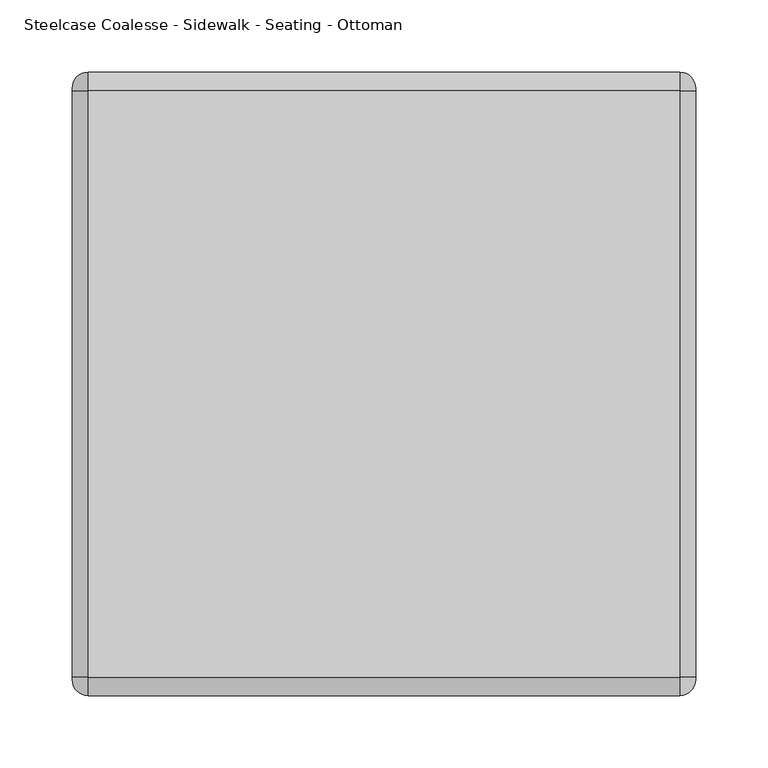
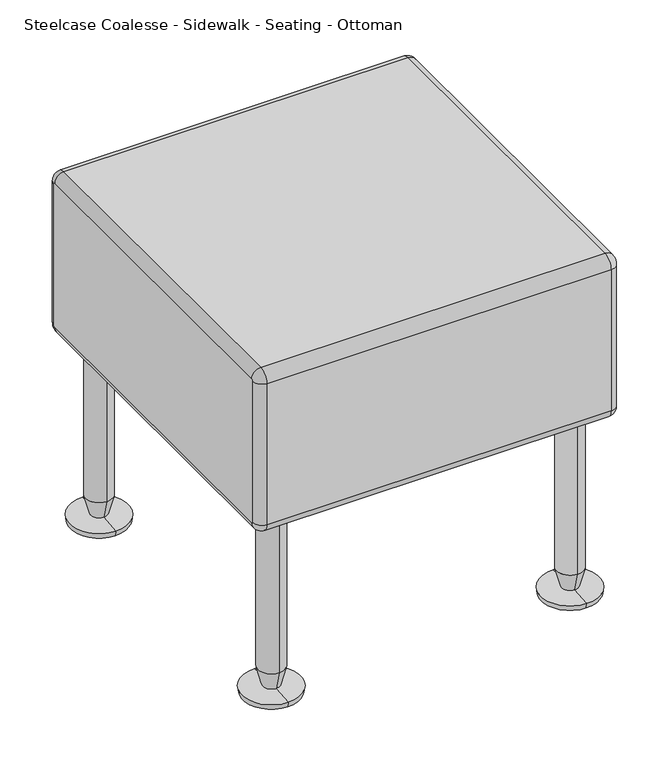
"""IFC4 building model written with IfcOpenShell, lengths in millimetres: furniture geometry, Steelcase Coalesse - Sidewalk - Seating - Ottoman : 17D x 17W."""

from ifc_helpers import new_model, si_unit, point, frame, origin, place, context, project, spatial, polyline, circle_curve, ellipse_curve, trimmed, source, transform, mapped, element, save
from ifc_brep_helpers import plane_surface, cylinder_surface, revolved_surface, advanced_brep


def steelcase_coalesse_sidewalk_seating_ottoman_6e0333ec(model_context):
    return source(origin(), model_context, "Body", "AdvancedBrep", [
        advanced_brep(
        [(465.8089794, -146.3050929, 420.6875), (465.8089794, -144.7175929, 419.1), (465.8089794, -144.7175929, 241.3), (465.8089794, -146.3050929, 239.7125), (465.8089794, -552.7050929, 239.7125), (465.8089794, -554.2925929, 241.3), (465.8089794, -554.2925929, 419.1), (465.8089794, -552.7050929, 420.6875), (897.6089794, -552.7050929, 420.6875), (897.6089794, -554.2925929, 419.1), (897.6089794, -554.2925929, 241.3), (897.6089794, -552.7050929, 239.7125), (897.6089794, -146.3050929, 239.7125), (897.6089794, -144.7175929, 241.3), (897.6089794, -144.7175929, 419.1), (897.6089794, -146.3050929, 420.6875), (476.9214794, -146.3050929, 431.8), (476.9214794, -552.7050929, 431.8), (886.4964794, -552.7050929, 431.8), (886.4964794, -146.3050929, 431.8), (476.9214794, -133.6050929, 419.1), (886.4964794, -133.6050929, 419.1), (476.9214794, -133.6050929, 241.3), (886.4964794, -133.6050929, 241.3), (476.9214794, -146.3050929, 228.6), (886.4964794, -146.3050929, 228.6), (476.9214794, -552.7050929, 228.6), (886.4964794, -552.7050929, 228.6), (476.9214794, -565.4050929, 241.3), (886.4964794, -565.4050929, 241.3), (476.9214794, -565.4050929, 419.1), (886.4964794, -565.4050929, 419.1)],
        [
            (0, 1, circle_curve(frame((465.8089794, -146.3050929, 419.1), z_axis=(-1.0, 0.0, 0.0), x_axis=(0.0, 0.0, 1.0)), 1.5875)),
            (1, 2),
            (2, 3, circle_curve(frame((465.8089794, -146.3050929, 241.3), z_axis=(-1.0, 0.0, 0.0), x_axis=(0.0, 1.0, 0.0)), 1.5875)),
            (3, 4),
            (4, 5, circle_curve(frame((465.8089794, -552.7050929, 241.3), z_axis=(-1.0, 0.0, 0.0), x_axis=(0.0, 0.0, -1.0)), 1.5875)),
            (5, 6),
            (6, 7, circle_curve(frame((465.8089794, -552.7050929, 419.1), z_axis=(-1.0, 0.0, 0.0), x_axis=(0.0, -1.0, 0.0)), 1.5875)),
            (7, 0),
            (8, 9, circle_curve(frame((897.6089794, -552.7050929, 419.1), z_axis=(1.0, 0.0, 0.0), x_axis=(0.0, 0.0, 1.0)), 1.5875)),
            (9, 10),
            (10, 11, circle_curve(frame((897.6089794, -552.7050929, 241.3), z_axis=(1.0, 0.0, 0.0), x_axis=(0.0, -1.0, 0.0)), 1.5875)),
            (11, 12),
            (12, 13, circle_curve(frame((897.6089794, -146.3050929, 241.3), z_axis=(1.0, 0.0, 0.0), x_axis=(0.0, 0.0, -1.0)), 1.5875)),
            (13, 14),
            (14, 15, circle_curve(frame((897.6089794, -146.3050929, 419.1), z_axis=(1.0, 0.0, 0.0), x_axis=(0.0, 1.0, 0.0)), 1.5875)),
            (15, 8),
            (16, 17),
            (17, 18),
            (18, 19),
            (19, 16),
            (20, 16, circle_curve(frame((476.9214794, -146.3050929, 419.1), z_axis=(1.0, 0.0, 0.0), x_axis=(0.0, -1.0, 0.0)), 12.7)),
            (19, 21, circle_curve(frame((886.4964794, -146.3050929, 419.1), z_axis=(-1.0, 0.0, 0.0), x_axis=(0.0, -1.0, 0.0)), 12.7)),
            (21, 20),
            (22, 20),
            (21, 23),
            (23, 22),
            (24, 22, circle_curve(frame((476.9214794, -146.3050929, 241.3), z_axis=(1.0, 0.0, 0.0), x_axis=(0.0, -1.0, 0.0)), 12.7)),
            (23, 25, circle_curve(frame((886.4964794, -146.3050929, 241.3), z_axis=(-1.0, 0.0, 0.0), x_axis=(0.0, -1.0, 0.0)), 12.7)),
            (25, 24),
            (26, 24),
            (25, 27),
            (27, 26),
            (28, 26, circle_curve(frame((476.9214794, -552.7050929, 241.3), z_axis=(1.0, 0.0, 0.0), x_axis=(0.0, -1.0, 0.0)), 12.7)),
            (27, 29, circle_curve(frame((886.4964794, -552.7050929, 241.3), z_axis=(-1.0, 0.0, 0.0), x_axis=(0.0, -1.0, 0.0)), 12.7)),
            (29, 28),
            (30, 28),
            (29, 31),
            (31, 30),
            (17, 30, circle_curve(frame((476.9214794, -552.7050929, 419.1), z_axis=(1.0, 0.0, 0.0), x_axis=(0.0, -1.0, 0.0)), 12.7)),
            (31, 18, circle_curve(frame((886.4964794, -552.7050929, 419.1), z_axis=(-1.0, 0.0, 0.0), x_axis=(0.0, -1.0, 0.0)), 12.7)),
            (20, 1, circle_curve(frame((476.9214794, -144.7175929, 419.1), z_axis=(0.0, 0.0, 1.0), x_axis=(0.0, -1.0, 0.0)), 11.1125)),
            (0, 16, circle_curve(frame((476.9214794, -146.3050929, 420.6875), z_axis=(0.0, 1.0, 0.0), x_axis=(0.0, 0.0, -1.0)), 11.1125)),
            (22, 2, circle_curve(frame((476.9214794, -144.7175929, 241.3), z_axis=(0.0, 0.0, 1.0), x_axis=(0.0, -1.0, 0.0)), 11.1125)),
            (24, 3, circle_curve(frame((476.9214794, -146.3050929, 239.7125), z_axis=(0.0, 1.0, 0.0), x_axis=(0.0, 0.0, 1.0)), 11.1125)),
            (26, 4, circle_curve(frame((476.9214794, -552.7050929, 239.7125), z_axis=(0.0, 1.0, 0.0), x_axis=(0.0, 0.0, 1.0)), 11.1125)),
            (28, 5, circle_curve(frame((476.9214794, -554.2925929, 241.3), z_axis=(0.0, 0.0, -1.0), x_axis=(0.0, 1.0, 0.0)), 11.1125)),
            (30, 6, circle_curve(frame((476.9214794, -554.2925929, 419.1), z_axis=(0.0, 0.0, -1.0), x_axis=(0.0, 1.0, 0.0)), 11.1125)),
            (17, 7, circle_curve(frame((476.9214794, -552.7050929, 420.6875), z_axis=(0.0, -1.0, 0.0), x_axis=(0.0, 0.0, -1.0)), 11.1125)),
            (31, 9, circle_curve(frame((886.4964794, -554.2925929, 419.1), z_axis=(0.0, 0.0, 1.0), x_axis=(0.0, -1.0, 0.0)), 11.1125)),
            (8, 18, circle_curve(frame((886.4964794, -552.7050929, 420.6875), z_axis=(0.0, -1.0, 0.0), x_axis=(0.0, 0.0, 1.0)), 11.1125)),
            (29, 10, circle_curve(frame((886.4964794, -554.2925929, 241.3), z_axis=(0.0, 0.0, 1.0), x_axis=(0.0, -1.0, 0.0)), 11.1125)),
            (27, 11, circle_curve(frame((886.4964794, -552.7050929, 239.7125), z_axis=(0.0, -1.0, 0.0), x_axis=(0.0, 0.0, -1.0)), 11.1125)),
            (25, 12, circle_curve(frame((886.4964794, -146.3050929, 239.7125), z_axis=(0.0, -1.0, 0.0), x_axis=(0.0, 0.0, -1.0)), 11.1125)),
            (23, 13, circle_curve(frame((886.4964794, -144.7175929, 241.3), z_axis=(0.0, 0.0, -1.0), x_axis=(0.0, 1.0, 0.0)), 11.1125)),
            (21, 14, circle_curve(frame((886.4964794, -144.7175929, 419.1), z_axis=(0.0, 0.0, -1.0), x_axis=(0.0, 1.0, 0.0)), 11.1125)),
            (19, 15, circle_curve(frame((886.4964794, -146.3050929, 420.6875), z_axis=(0.0, 1.0, 0.0), x_axis=(0.0, 0.0, 1.0)), 11.1125)),
        ],
        [
            plane_surface(frame((465.8089794, -146.3050929, 431.8), z_axis=(-1.0, 0.0, 0.0), x_axis=(0.0, 1.0, 0.0))),
            plane_surface(frame((897.6089794, -146.3050929, 431.8), z_axis=(1.0, 0.0, 0.0), x_axis=(0.0, -1.0, 0.0))),
            plane_surface(frame((465.8089794, -552.7050929, 431.8), z_axis=(0.0, 0.0, 1.0), x_axis=(1.0, 0.0, 0.0))),
            cylinder_surface(frame((897.6089794, -146.3050929, 419.1), z_axis=(-1.0, 0.0, 0.0), x_axis=(0.0, -1.0, 0.0)), 12.7),
            plane_surface(frame((465.8089794, -133.6050929, 419.1), z_axis=(0.0, 1.0, 0.0), x_axis=(1.0, 0.0, 0.0))),
            cylinder_surface(frame((897.6089794, -146.3050929, 241.3), z_axis=(-1.0, 0.0, 0.0), x_axis=(0.0, -1.0, 0.0)), 12.7),
            plane_surface(frame((465.8089794, -146.3050929, 228.6), z_axis=(0.0, 0.0, -1.0), x_axis=(1.0, 0.0, 0.0))),
            cylinder_surface(frame((897.6089794, -552.7050929, 241.3), z_axis=(-1.0, 0.0, 0.0), x_axis=(0.0, -1.0, 0.0)), 12.7),
            plane_surface(frame((465.8089794, -565.4050929, 241.3), z_axis=(0.0, -1.0, 0.0), x_axis=(1.0, 0.0, 0.0))),
            cylinder_surface(frame((897.6089794, -552.7050929, 419.1), z_axis=(-1.0, 0.0, 0.0), x_axis=(0.0, -1.0, 0.0)), 12.7),
            revolved_surface(trimmed(ellipse_curve(frame((476.9214794, -146.3050929, 420.6875), z_axis=(0.0, -1.0, 0.0), x_axis=(0.0, 0.0, -1.0)), 11.1125, 11.1125), [point((476.9214794, -146.3050929, 431.8))], [point((465.8089794, -146.3050929, 420.6875))], True, "CARTESIAN"), (465.8089794, -146.3050929, 419.1), (-1.0, 0.0, 0.0)),
            cylinder_surface(frame((476.9214794, -144.7175929, 419.1), z_axis=(0.0, 0.0, -1.0), x_axis=(0.0, -1.0, 0.0)), 11.1125),
            revolved_surface(trimmed(ellipse_curve(frame((476.9214794, -144.7175929, 241.3), z_axis=(0.0, 0.0, 1.0), x_axis=(0.0, -1.0, 0.0)), 11.1125, 11.1125), [point((476.9214794, -133.6050929, 241.3))], [point((465.8089794, -144.7175929, 241.3))], True, "CARTESIAN"), (465.8089794, -146.3050929, 241.3), (-1.0, 0.0, 0.0)),
            cylinder_surface(frame((476.9214794, -146.3050929, 239.7125), z_axis=(0.0, -1.0, 0.0), x_axis=(0.0, 0.0, 1.0)), 11.1125),
            revolved_surface(trimmed(ellipse_curve(frame((476.9214794, -552.7050929, 239.7125), z_axis=(0.0, 1.0, 0.0), x_axis=(0.0, 0.0, 1.0)), 11.1125, 11.1125), [point((476.9214794, -552.7050929, 228.6))], [point((465.8089794, -552.7050929, 239.7125))], True, "CARTESIAN"), (465.8089794, -552.7050929, 241.3), (-1.0, 0.0, 0.0)),
            cylinder_surface(frame((476.9214794, -554.2925929, 241.3), z_axis=(0.0, 0.0, 1.0), x_axis=(0.0, 1.0, 0.0)), 11.1125),
            revolved_surface(trimmed(ellipse_curve(frame((476.9214794, -554.2925929, 419.1), z_axis=(0.0, 0.0, -1.0), x_axis=(0.0, 1.0, 0.0)), 11.1125, 11.1125), [point((476.9214794, -565.4050929, 419.1))], [point((465.8089794, -554.2925929, 419.1))], True, "CARTESIAN"), (465.8089794, -552.7050929, 419.1), (-1.0, 0.0, 0.0)),
            cylinder_surface(frame((476.9214794, -552.7050929, 420.6875), z_axis=(0.0, 1.0, 0.0), x_axis=(0.0, 0.0, -1.0)), 11.1125),
            revolved_surface(trimmed(ellipse_curve(frame((886.4964794, -552.7050929, 420.6875), z_axis=(0.0, 1.0, 0.0), x_axis=(0.0, 0.0, 1.0)), 11.1125, 11.1125), [point((886.4964794, -552.7050929, 431.8))], [point((897.6089794, -552.7050929, 420.6875))], True, "CARTESIAN"), (897.6089794, -552.7050929, 419.1), (1.0, 0.0, 0.0)),
            cylinder_surface(frame((886.4964794, -554.2925929, 419.1), z_axis=(0.0, 0.0, -1.0), x_axis=(0.0, -1.0, 0.0)), 11.1125),
            revolved_surface(trimmed(ellipse_curve(frame((886.4964794, -554.2925929, 241.3), z_axis=(0.0, 0.0, 1.0), x_axis=(0.0, -1.0, 0.0)), 11.1125, 11.1125), [point((886.4964794, -565.4050929, 241.3))], [point((897.6089794, -554.2925929, 241.3))], True, "CARTESIAN"), (897.6089794, -552.7050929, 241.3), (1.0, 0.0, 0.0)),
            cylinder_surface(frame((886.4964794, -552.7050929, 239.7125), z_axis=(0.0, 1.0, 0.0), x_axis=(0.0, 0.0, -1.0)), 11.1125),
            revolved_surface(trimmed(ellipse_curve(frame((886.4964794, -146.3050929, 239.7125), z_axis=(0.0, -1.0, 0.0), x_axis=(0.0, 0.0, -1.0)), 11.1125, 11.1125), [point((886.4964794, -146.3050929, 228.6))], [point((897.6089794, -146.3050929, 239.7125))], True, "CARTESIAN"), (897.6089794, -146.3050929, 241.3), (1.0, 0.0, 0.0)),
            cylinder_surface(frame((886.4964794, -144.7175929, 241.3), z_axis=(0.0, 0.0, 1.0), x_axis=(0.0, 1.0, 0.0)), 11.1125),
            revolved_surface(trimmed(ellipse_curve(frame((886.4964794, -144.7175929, 419.1), z_axis=(0.0, 0.0, -1.0), x_axis=(0.0, 1.0, 0.0)), 11.1125, 11.1125), [point((886.4964794, -133.6050929, 419.1))], [point((897.6089794, -144.7175929, 419.1))], True, "CARTESIAN"), (897.6089794, -146.3050929, 419.1), (1.0, 0.0, 0.0)),
            cylinder_surface(frame((886.4964794, -146.3050929, 420.6875), z_axis=(0.0, -1.0, 0.0), x_axis=(0.0, 0.0, 1.0)), 11.1125),
        ],
        [
            (0, [[1, 2, 3, 4, 5, 6, 7, 8]]),
            (1, [[9, 10, 11, 12, 13, 14, 15, 16]]),
            (2, [[17, 18, 19, 20]]),
            (3, [[21, -20, 22, 23]]),
            (4, [[24, -23, 25, 26]]),
            (5, [[27, -26, 28, 29]]),
            (6, [[30, -29, 31, 32]]),
            (7, [[33, -32, 34, 35]]),
            (8, [[36, -35, 37, 38]]),
            (9, [[39, -38, 40, -18]]),
            (10, [[41, -1, 42, -21]]),
            (11, [[-41, -24, 43, -2]]),
            (12, [[-43, -27, 44, -3]]),
            (13, [[-44, -30, 45, -4]]),
            (14, [[-45, -33, 46, -5]]),
            (15, [[-46, -36, 47, -6]]),
            (16, [[-47, -39, 48, -7]]),
            (17, [[-42, -8, -48, -17]]),
            (18, [[49, -9, 50, -40]]),
            (19, [[-49, -37, 51, -10]]),
            (20, [[-51, -34, 52, -11]]),
            (21, [[-52, -31, 53, -12]]),
            (22, [[-53, -28, 54, -13]]),
            (23, [[-54, -25, 55, -14]]),
            (24, [[-55, -22, 56, -15]]),
            (25, [[-50, -16, -56, -19]]),
        ],
    ),
        advanced_brep(
        [(859.5089794, -187.5800929, 31.75), (859.5089794, -155.8300929, 31.75), (859.5089794, -155.8300929, 228.6), (859.5089794, -187.5800929, 228.6), (859.5089794, -181.5884463, 8.5001207), (859.5089794, -161.8217394, 8.5001207), (859.5089794, -206.6300929, 6.35), (859.5089794, -136.7800929, 6.35), (859.5089794, -205.5717596, 0.0), (859.5089794, -137.8384262, 0.0), (859.5089794, -171.7050929, 0.0), (859.5089794, -171.7050929, 228.6)],
        [
            (0, 1, circle_curve(frame((859.5089794, -171.7050929, 31.75), z_axis=(0.0, 0.0, 1.0), x_axis=(0.0, 1.0, 0.0)), 15.875)),
            (1, 2),
            (2, 3, circle_curve(frame((859.5089794, -171.7050929, 228.6), z_axis=(0.0, 0.0, -1.0), x_axis=(0.0, 1.0, 0.0)), 15.875)),
            (3, 0),
            (1, 0, circle_curve(frame((859.5089794, -171.7050929, 31.75), z_axis=(0.0, 0.0, 1.0), x_axis=(0.0, 1.0, 0.0)), 15.875)),
            (3, 2, circle_curve(frame((859.5089794, -171.7050929, 228.6), z_axis=(0.0, 0.0, -1.0), x_axis=(0.0, 1.0, 0.0)), 15.875)),
            (4, 5, circle_curve(frame((859.5089794, -171.7050929, 8.5001207), z_axis=(0.0, 0.0, 1.0), x_axis=(0.0, 1.0, 0.0)), 9.8833534)),
            (5, 1),
            (0, 4),
            (5, 4, circle_curve(frame((859.5089794, -171.7050929, 8.5001207), z_axis=(0.0, 0.0, 1.0), x_axis=(0.0, 1.0, 0.0)), 9.8833534)),
            (6, 7, circle_curve(frame((859.5089794, -171.7050929, 6.35), z_axis=(0.0, 0.0, 1.0), x_axis=(0.0, 1.0, 0.0)), 34.925)),
            (7, 5),
            (4, 6),
            (7, 6, circle_curve(frame((859.5089794, -171.7050929, 6.35), z_axis=(0.0, 0.0, 1.0), x_axis=(0.0, 1.0, 0.0)), 34.925)),
            (8, 9, circle_curve(frame((859.5089794, -171.7050929, 0.0), z_axis=(0.0, 0.0, 1.0), x_axis=(0.0, 1.0, 0.0)), 33.8666667)),
            (9, 7),
            (6, 8),
            (9, 8, circle_curve(frame((859.5089794, -171.7050929, 0.0), z_axis=(0.0, 0.0, 1.0), x_axis=(0.0, 1.0, 0.0)), 33.8666667)),
            (10, 9),
            (8, 10),
            (2, 11),
            (11, 3),
        ],
        [
            cylinder_surface(frame((859.5089794, -171.7050929, -95.25), z_axis=(0.0, 0.0, -1.0), x_axis=(0.0, 1.0, 0.0)), 15.875),
            revolved_surface(polyline([(859.5089794, -155.8300929, 31.75), (859.5089794, -161.8217394, 8.5001207)]), (859.5089794, -171.7050929, -95.25), (0.0, 0.0, -1.0)),
            revolved_surface(polyline([(859.5089794, -161.8217394, 8.5001207), (859.5089794, -136.7800929, 6.35)]), (859.5089794, -171.7050929, -95.25), (0.0, 0.0, -1.0)),
            revolved_surface(polyline([(859.5089794, -136.7800929, 6.35), (859.5089794, -137.8384262, 0.0)]), (859.5089794, -171.7050929, -95.25), (0.0, 0.0, -1.0)),
            plane_surface(frame((859.5089794, -171.7050929, 0.0), z_axis=(0.0, 0.0, -1.0), x_axis=(0.0, 1.0, 0.0))),
            plane_surface(frame((859.5089794, -171.7050929, 228.6), z_axis=(0.0, 0.0, 1.0), x_axis=(0.0, 1.0, 0.0))),
        ],
        [
            (0, [[1, 2, 3, 4]]),
            (0, [[5, -4, 6, -2]]),
            (1, [[7, 8, -1, 9]]),
            (1, [[10, -9, -5, -8]]),
            (2, [[11, 12, -7, 13]]),
            (2, [[14, -13, -10, -12]]),
            (3, [[15, 16, -11, 17]]),
            (3, [[18, -17, -14, -16]]),
            (4, [[19, -15, 20]]),
            (4, [[-20, -18, -19]]),
            (5, [[-3, 21, 22]]),
            (5, [[-6, -22, -21]]),
        ],
    ),
        advanced_brep(
        [(503.9089794, -171.7050929, 228.6), (503.9089794, -155.8300929, 228.6), (503.9089794, -187.5800929, 228.6), (503.9089794, -205.5717596, 0.0), (503.9089794, -137.8384262, 0.0), (503.9089794, -171.7050929, 0.0), (503.9089794, -206.6300929, 6.35), (503.9089794, -136.7800929, 6.35), (503.9089794, -181.5884463, 8.5001207), (503.9089794, -161.8217394, 8.5001207), (503.9089794, -187.5800929, 31.75), (503.9089794, -155.8300929, 31.75)],
        [
            (0, 1),
            (1, 2, circle_curve(frame((503.9089794, -171.7050929, 228.6), z_axis=(0.0, 0.0, 1.0), x_axis=(0.0, 1.0, 0.0)), 15.875)),
            (2, 0),
            (2, 1, circle_curve(frame((503.9089794, -171.7050929, 228.6), z_axis=(0.0, 0.0, 1.0), x_axis=(0.0, 1.0, 0.0)), 15.875)),
            (3, 4, circle_curve(frame((503.9089794, -171.7050929, 0.0), z_axis=(0.0, 0.0, -1.0), x_axis=(0.0, 1.0, 0.0)), 33.8666667)),
            (4, 5),
            (5, 3),
            (4, 3, circle_curve(frame((503.9089794, -171.7050929, 0.0), z_axis=(0.0, 0.0, -1.0), x_axis=(0.0, 1.0, 0.0)), 33.8666667)),
            (6, 7, circle_curve(frame((503.9089794, -171.7050929, 6.35), z_axis=(0.0, 0.0, -1.0), x_axis=(0.0, 1.0, 0.0)), 34.925)),
            (7, 4),
            (3, 6),
            (7, 6, circle_curve(frame((503.9089794, -171.7050929, 6.35), z_axis=(0.0, 0.0, -1.0), x_axis=(0.0, 1.0, 0.0)), 34.925)),
            (8, 9, circle_curve(frame((503.9089794, -171.7050929, 8.5001207), z_axis=(0.0, 0.0, -1.0), x_axis=(0.0, 1.0, 0.0)), 9.8833534)),
            (9, 7),
            (6, 8),
            (9, 8, circle_curve(frame((503.9089794, -171.7050929, 8.5001207), z_axis=(0.0, 0.0, -1.0), x_axis=(0.0, 1.0, 0.0)), 9.8833534)),
            (10, 11, circle_curve(frame((503.9089794, -171.7050929, 31.75), z_axis=(0.0, 0.0, -1.0), x_axis=(0.0, 1.0, 0.0)), 15.875)),
            (11, 9),
            (8, 10),
            (11, 10, circle_curve(frame((503.9089794, -171.7050929, 31.75), z_axis=(0.0, 0.0, -1.0), x_axis=(0.0, 1.0, 0.0)), 15.875)),
            (1, 11),
            (10, 2),
        ],
        [
            plane_surface(frame((503.9089794, -171.7050929, 228.6), z_axis=(0.0, 0.0, 1.0), x_axis=(0.0, 1.0, 0.0))),
            plane_surface(frame((503.9089794, -171.7050929, 0.0), z_axis=(0.0, 0.0, -1.0), x_axis=(0.0, 1.0, 0.0))),
            revolved_surface(polyline([(503.9089794, -137.8384262, 0.0), (503.9089794, -136.7800929, 6.35)]), (503.9089794, -171.7050929, -95.25), (0.0, 0.0, 1.0)),
            revolved_surface(polyline([(503.9089794, -136.7800929, 6.35), (503.9089794, -161.8217394, 8.5001207)]), (503.9089794, -171.7050929, -95.25), (0.0, 0.0, 1.0)),
            revolved_surface(polyline([(503.9089794, -161.8217394, 8.5001207), (503.9089794, -155.8300929, 31.75)]), (503.9089794, -171.7050929, -95.25), (0.0, 0.0, 1.0)),
            cylinder_surface(frame((503.9089794, -171.7050929, -95.25), z_axis=(0.0, 0.0, 1.0), x_axis=(0.0, 1.0, 0.0)), 15.875),
        ],
        [
            (0, [[1, 2, 3]]),
            (0, [[-3, 4, -1]]),
            (1, [[5, 6, 7]]),
            (1, [[8, -7, -6]]),
            (2, [[9, 10, -5, 11]]),
            (2, [[12, -11, -8, -10]]),
            (3, [[13, 14, -9, 15]]),
            (3, [[16, -15, -12, -14]]),
            (4, [[17, 18, -13, 19]]),
            (4, [[20, -19, -16, -18]]),
            (5, [[-2, 21, -17, 22]]),
            (5, [[-4, -22, -20, -21]]),
        ],
    ),
        advanced_brep(
        [(859.5089794, -543.1800929, 31.75), (859.5089794, -511.4300929, 31.75), (859.5089794, -511.4300929, 228.6), (859.5089794, -543.1800929, 228.6), (859.5089794, -537.1884463, 8.5001207), (859.5089794, -517.4217394, 8.5001207), (859.5089794, -562.2300929, 6.35), (859.5089794, -492.3800929, 6.35), (859.5089794, -561.1717596, 0.0), (859.5089794, -493.4384262, 0.0), (859.5089794, -527.3050929, 0.0), (859.5089794, -527.3050929, 228.6)],
        [
            (0, 1, circle_curve(frame((859.5089794, -527.3050929, 31.75), z_axis=(0.0, 0.0, 1.0), x_axis=(0.0, 1.0, 0.0)), 15.875)),
            (1, 2),
            (2, 3, circle_curve(frame((859.5089794, -527.3050929, 228.6), z_axis=(0.0, 0.0, -1.0), x_axis=(0.0, 1.0, 0.0)), 15.875)),
            (3, 0),
            (1, 0, circle_curve(frame((859.5089794, -527.3050929, 31.75), z_axis=(0.0, 0.0, 1.0), x_axis=(0.0, 1.0, 0.0)), 15.875)),
            (3, 2, circle_curve(frame((859.5089794, -527.3050929, 228.6), z_axis=(0.0, 0.0, -1.0), x_axis=(0.0, 1.0, 0.0)), 15.875)),
            (4, 5, circle_curve(frame((859.5089794, -527.3050929, 8.5001207), z_axis=(0.0, 0.0, 1.0), x_axis=(0.0, 1.0, 0.0)), 9.8833534)),
            (5, 1),
            (0, 4),
            (5, 4, circle_curve(frame((859.5089794, -527.3050929, 8.5001207), z_axis=(0.0, 0.0, 1.0), x_axis=(0.0, 1.0, 0.0)), 9.8833534)),
            (6, 7, circle_curve(frame((859.5089794, -527.3050929, 6.35), z_axis=(0.0, 0.0, 1.0), x_axis=(0.0, 1.0, 0.0)), 34.925)),
            (7, 5),
            (4, 6),
            (7, 6, circle_curve(frame((859.5089794, -527.3050929, 6.35), z_axis=(0.0, 0.0, 1.0), x_axis=(0.0, 1.0, 0.0)), 34.925)),
            (8, 9, circle_curve(frame((859.5089794, -527.3050929, 0.0), z_axis=(0.0, 0.0, 1.0), x_axis=(0.0, 1.0, 0.0)), 33.8666667)),
            (9, 7),
            (6, 8),
            (9, 8, circle_curve(frame((859.5089794, -527.3050929, 0.0), z_axis=(0.0, 0.0, 1.0), x_axis=(0.0, 1.0, 0.0)), 33.8666667)),
            (10, 9),
            (8, 10),
            (2, 11),
            (11, 3),
        ],
        [
            cylinder_surface(frame((859.5089794, -527.3050929, -95.25), z_axis=(0.0, 0.0, -1.0), x_axis=(0.0, 1.0, 0.0)), 15.875),
            revolved_surface(polyline([(859.5089794, -511.4300929, 31.75), (859.5089794, -517.4217394, 8.5001207)]), (859.5089794, -527.3050929, -95.25), (0.0, 0.0, -1.0)),
            revolved_surface(polyline([(859.5089794, -517.4217394, 8.5001207), (859.5089794, -492.3800929, 6.35)]), (859.5089794, -527.3050929, -95.25), (0.0, 0.0, -1.0)),
            revolved_surface(polyline([(859.5089794, -492.3800929, 6.35), (859.5089794, -493.4384262, 0.0)]), (859.5089794, -527.3050929, -95.25), (0.0, 0.0, -1.0)),
            plane_surface(frame((859.5089794, -527.3050929, 0.0), z_axis=(0.0, 0.0, -1.0), x_axis=(0.0, 1.0, 0.0))),
            plane_surface(frame((859.5089794, -527.3050929, 228.6), z_axis=(0.0, 0.0, 1.0), x_axis=(0.0, 1.0, 0.0))),
        ],
        [
            (0, [[1, 2, 3, 4]]),
            (0, [[5, -4, 6, -2]]),
            (1, [[7, 8, -1, 9]]),
            (1, [[10, -9, -5, -8]]),
            (2, [[11, 12, -7, 13]]),
            (2, [[14, -13, -10, -12]]),
            (3, [[15, 16, -11, 17]]),
            (3, [[18, -17, -14, -16]]),
            (4, [[19, -15, 20]]),
            (4, [[-20, -18, -19]]),
            (5, [[-3, 21, 22]]),
            (5, [[-6, -22, -21]]),
        ],
    ),
        advanced_brep(
        [(503.9089794, -527.3050929, 228.6), (503.9089794, -511.4300929, 228.6), (503.9089794, -543.1800929, 228.6), (503.9089794, -561.1717596, 0.0), (503.9089794, -493.4384262, 0.0), (503.9089794, -527.3050929, 0.0), (503.9089794, -562.2300929, 6.35), (503.9089794, -492.3800929, 6.35), (503.9089794, -537.1884463, 8.5001207), (503.9089794, -517.4217394, 8.5001207), (503.9089794, -543.1800929, 31.75), (503.9089794, -511.4300929, 31.75)],
        [
            (0, 1),
            (1, 2, circle_curve(frame((503.9089794, -527.3050929, 228.6), z_axis=(0.0, 0.0, 1.0), x_axis=(0.0, 1.0, 0.0)), 15.875)),
            (2, 0),
            (2, 1, circle_curve(frame((503.9089794, -527.3050929, 228.6), z_axis=(0.0, 0.0, 1.0), x_axis=(0.0, 1.0, 0.0)), 15.875)),
            (3, 4, circle_curve(frame((503.9089794, -527.3050929, 0.0), z_axis=(0.0, 0.0, -1.0), x_axis=(0.0, 1.0, 0.0)), 33.8666667)),
            (4, 5),
            (5, 3),
            (4, 3, circle_curve(frame((503.9089794, -527.3050929, 0.0), z_axis=(0.0, 0.0, -1.0), x_axis=(0.0, 1.0, 0.0)), 33.8666667)),
            (6, 7, circle_curve(frame((503.9089794, -527.3050929, 6.35), z_axis=(0.0, 0.0, -1.0), x_axis=(0.0, 1.0, 0.0)), 34.925)),
            (7, 4),
            (3, 6),
            (7, 6, circle_curve(frame((503.9089794, -527.3050929, 6.35), z_axis=(0.0, 0.0, -1.0), x_axis=(0.0, 1.0, 0.0)), 34.925)),
            (8, 9, circle_curve(frame((503.9089794, -527.3050929, 8.5001207), z_axis=(0.0, 0.0, -1.0), x_axis=(0.0, 1.0, 0.0)), 9.8833534)),
            (9, 7),
            (6, 8),
            (9, 8, circle_curve(frame((503.9089794, -527.3050929, 8.5001207), z_axis=(0.0, 0.0, -1.0), x_axis=(0.0, 1.0, 0.0)), 9.8833534)),
            (10, 11, circle_curve(frame((503.9089794, -527.3050929, 31.75), z_axis=(0.0, 0.0, -1.0), x_axis=(0.0, 1.0, 0.0)), 15.875)),
            (11, 9),
            (8, 10),
            (11, 10, circle_curve(frame((503.9089794, -527.3050929, 31.75), z_axis=(0.0, 0.0, -1.0), x_axis=(0.0, 1.0, 0.0)), 15.875)),
            (1, 11),
            (10, 2),
        ],
        [
            plane_surface(frame((503.9089794, -527.3050929, 228.6), z_axis=(0.0, 0.0, 1.0), x_axis=(0.0, 1.0, 0.0))),
            plane_surface(frame((503.9089794, -527.3050929, 0.0), z_axis=(0.0, 0.0, -1.0), x_axis=(0.0, 1.0, 0.0))),
            revolved_surface(polyline([(503.9089794, -493.4384262, 0.0), (503.9089794, -492.3800929, 6.35)]), (503.9089794, -527.3050929, -95.25), (0.0, 0.0, 1.0)),
            revolved_surface(polyline([(503.9089794, -492.3800929, 6.35), (503.9089794, -517.4217394, 8.5001207)]), (503.9089794, -527.3050929, -95.25), (0.0, 0.0, 1.0)),
            revolved_surface(polyline([(503.9089794, -517.4217394, 8.5001207), (503.9089794, -511.4300929, 31.75)]), (503.9089794, -527.3050929, -95.25), (0.0, 0.0, 1.0)),
            cylinder_surface(frame((503.9089794, -527.3050929, -95.25), z_axis=(0.0, 0.0, 1.0), x_axis=(0.0, 1.0, 0.0)), 15.875),
        ],
        [
            (0, [[1, 2, 3]]),
            (0, [[-3, 4, -1]]),
            (1, [[5, 6, 7]]),
            (1, [[8, -7, -6]]),
            (2, [[9, 10, -5, 11]]),
            (2, [[12, -11, -8, -10]]),
            (3, [[13, 14, -9, 15]]),
            (3, [[16, -15, -12, -14]]),
            (4, [[17, 18, -13, 19]]),
            (4, [[20, -19, -16, -18]]),
            (5, [[-2, 21, -17, 22]]),
            (5, [[-4, -22, -20, -21]]),
        ],
    ),
    ])


if __name__ == "__main__":
    model = new_model("IFC4")
    model_context = context("Model", 3, world=origin())
    ifc_project = project(units=[si_unit("LENGTHUNIT", "METRE", prefix="MILLI")], contexts=[model_context])
    site = spatial("IfcSite", under=ifc_project)
    building = spatial("IfcBuilding", under=site)
    placement = place(None, origin())
    steelcase_coalesse_sidewalk_seating_ottoman_shape = steelcase_coalesse_sidewalk_seating_ottoman_6e0333ec(model_context)
    element("IfcFurniture", 1, ObjectType="Steelcase Coalesse - Sidewalk - Seating - Ottoman : 17D x 17W", at=placement, inside=building, context=model_context, shape_type="MappedRepresentation", body=[
        mapped(steelcase_coalesse_sidewalk_seating_ottoman_shape, transform((0.0, 0.0, 0.0), x_axis=(1.0, 0.0, 0.0), y_axis=(0.0, 1.0, 0.0), z_axis=(0.0, 0.0, 1.0))),
    ])
    save(model, "model.ifc")
